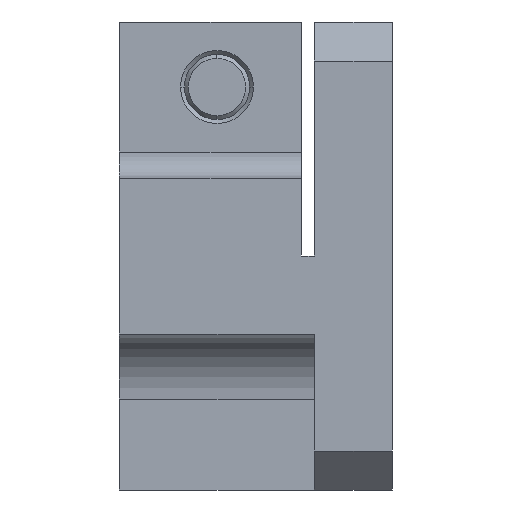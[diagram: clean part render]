
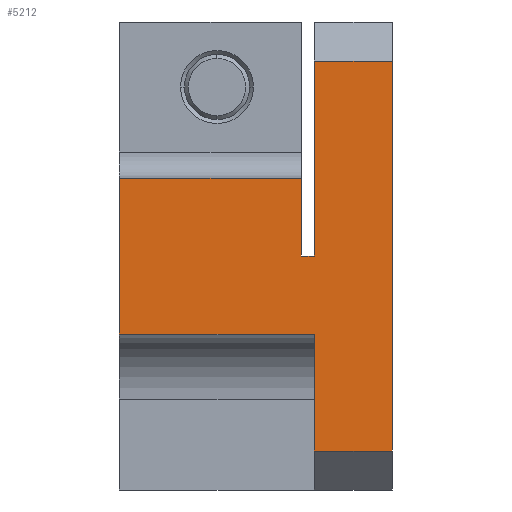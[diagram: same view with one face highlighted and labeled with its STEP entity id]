
A CAD part, left-side view. The second image highlights one B-rep face of the part: STEP entity #5212.
In plain terms, the highlighted planar face has unit normal (-1, 0, 0).
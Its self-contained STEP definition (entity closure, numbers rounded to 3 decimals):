
#94 = ORIENTED_EDGE ( 'NONE', *, *, #292, .F. ) ;
#292 = EDGE_CURVE ( 'NONE', #476, #6881, #1062, .T. ) ;
#419 = VERTEX_POINT ( 'NONE', #1305 ) ;
#470 = VECTOR ( 'NONE', #2616, 1000. ) ;
#476 = VERTEX_POINT ( 'NONE', #7019 ) ;
#745 = CARTESIAN_POINT ( 'NONE',  ( -32.604, -44.045, -15. ) ) ;
#823 = EDGE_CURVE ( 'NONE', #3649, #4412, #1107, .T. ) ;
#1043 = DIRECTION ( 'NONE',  ( 0., 0., 1. ) ) ;
#1062 = LINE ( 'NONE', #9571, #1545 ) ;
#1107 = LINE ( 'NONE', #9894, #470 ) ;
#1158 = VECTOR ( 'NONE', #6056, 1000. ) ;
#1175 = LINE ( 'NONE', #8552, #1625 ) ;
#1254 = CARTESIAN_POINT ( 'NONE',  ( -32.604, -38.045, 18. ) ) ;
#1305 = CARTESIAN_POINT ( 'NONE',  ( -32.604, -44.045, 15. ) ) ;
#1390 = CARTESIAN_POINT ( 'NONE',  ( -32.604, -38.045, 15. ) ) ;
#1545 = VECTOR ( 'NONE', #4996, 1000. ) ;
#1558 = ORIENTED_EDGE ( 'NONE', *, *, #823, .F. ) ;
#1625 = VECTOR ( 'NONE', #8591, 1000. ) ;
#1768 = EDGE_CURVE ( 'NONE', #1903, #8211, #1175, .T. ) ;
#1883 = CARTESIAN_POINT ( 'NONE',  ( -32.604, -23.045, -6. ) ) ;
#1903 = VERTEX_POINT ( 'NONE', #5991 ) ;
#1923 = ORIENTED_EDGE ( 'NONE', *, *, #5736, .F. ) ;
#1938 = CARTESIAN_POINT ( 'NONE',  ( -32.604, -23.045, -15. ) ) ;
#2095 = VECTOR ( 'NONE', #4953, 1000. ) ;
#2182 = EDGE_CURVE ( 'NONE', #8211, #419, #8545, .T. ) ;
#2265 = CARTESIAN_POINT ( 'NONE',  ( -32.604, -38.045, -15. ) ) ;
#2616 = DIRECTION ( 'NONE',  ( 0., -1., 0. ) ) ;
#2726 = VECTOR ( 'NONE', #6464, 1000. ) ;
#2733 = EDGE_CURVE ( 'NONE', #8399, #476, #4142, .T. ) ;
#2925 = ORIENTED_EDGE ( 'NONE', *, *, #2733, .F. ) ;
#3026 = ORIENTED_EDGE ( 'NONE', *, *, #6705, .T. ) ;
#3045 = AXIS2_PLACEMENT_3D ( 'NONE', #5347, #5109, #5431 ) ;
#3249 = LINE ( 'NONE', #1938, #2726 ) ;
#3548 = EDGE_CURVE ( 'NONE', #3922, #419, #10185, .T. ) ;
#3640 = DIRECTION ( 'NONE',  ( 0., -1., 0. ) ) ;
#3649 = VERTEX_POINT ( 'NONE', #9104 ) ;
#3680 = CARTESIAN_POINT ( 'NONE',  ( -32.604, -44.045, 18. ) ) ;
#3922 = VERTEX_POINT ( 'NONE', #745 ) ;
#4142 = LINE ( 'NONE', #1254, #8196 ) ;
#4412 = VERTEX_POINT ( 'NONE', #10282 ) ;
#4507 = LINE ( 'NONE', #9670, #2095 ) ;
#4540 = CARTESIAN_POINT ( 'NONE',  ( -32.604, -37.045, 0. ) ) ;
#4612 = VECTOR ( 'NONE', #3640, 1000. ) ;
#4664 = VECTOR ( 'NONE', #6217, 1000. ) ;
#4953 = DIRECTION ( 'NONE',  ( 0., -1., 0. ) ) ;
#4996 = DIRECTION ( 'NONE',  ( 0., 1., 0. ) ) ;
#5109 = DIRECTION ( 'NONE',  ( 1., 0., 0. ) ) ;
#5204 = PLANE ( 'NONE',  #3045 ) ;
#5212 = ADVANCED_FACE ( 'NONE', ( #9413 ), #5204, .F. ) ;
#5347 = CARTESIAN_POINT ( 'NONE',  ( -32.604, -23.045, 18. ) ) ;
#5431 = DIRECTION ( 'NONE',  ( 0., 0., -1. ) ) ;
#5736 = EDGE_CURVE ( 'NONE', #6881, #3649, #9912, .T. ) ;
#5991 = CARTESIAN_POINT ( 'NONE',  ( -32.604, -38.045, 0. ) ) ;
#6056 = DIRECTION ( 'NONE',  ( 0., 0., 1. ) ) ;
#6217 = DIRECTION ( 'NONE',  ( 0., 0., 1. ) ) ;
#6464 = DIRECTION ( 'NONE',  ( 0., 1., 0. ) ) ;
#6498 = CARTESIAN_POINT ( 'NONE',  ( -32.604, -23.045, 18. ) ) ;
#6572 = CARTESIAN_POINT ( 'NONE',  ( -32.604, -37.045, 0. ) ) ;
#6705 = EDGE_CURVE ( 'NONE', #8461, #4412, #9256, .T. ) ;
#6881 = VERTEX_POINT ( 'NONE', #1883 ) ;
#7019 = CARTESIAN_POINT ( 'NONE',  ( -32.604, -38.045, -6. ) ) ;
#7413 = ORIENTED_EDGE ( 'NONE', *, *, #1768, .F. ) ;
#7450 = CARTESIAN_POINT ( 'NONE',  ( -32.604, -23.045, 15. ) ) ;
#7887 = EDGE_LOOP ( 'NONE', ( #8669, #9910, #9231, #7413, #8172, #3026, #1558, #1923, #94, #2925 ) ) ;
#8172 = ORIENTED_EDGE ( 'NONE', *, *, #8781, .F. ) ;
#8196 = VECTOR ( 'NONE', #1043, 1000. ) ;
#8211 = VERTEX_POINT ( 'NONE', #1390 ) ;
#8399 = VERTEX_POINT ( 'NONE', #2265 ) ;
#8461 = VERTEX_POINT ( 'NONE', #4540 ) ;
#8545 = LINE ( 'NONE', #7450, #4612 ) ;
#8552 = CARTESIAN_POINT ( 'NONE',  ( -32.604, -38.045, 0. ) ) ;
#8591 = DIRECTION ( 'NONE',  ( 0., 0., 1. ) ) ;
#8669 = ORIENTED_EDGE ( 'NONE', *, *, #9050, .F. ) ;
#8781 = EDGE_CURVE ( 'NONE', #8461, #1903, #4507, .T. ) ;
#9050 = EDGE_CURVE ( 'NONE', #3922, #8399, #3249, .T. ) ;
#9104 = CARTESIAN_POINT ( 'NONE',  ( -32.604, -23.045, 6. ) ) ;
#9115 = VECTOR ( 'NONE', #9816, 1000. ) ;
#9231 = ORIENTED_EDGE ( 'NONE', *, *, #2182, .F. ) ;
#9256 = LINE ( 'NONE', #6572, #4664 ) ;
#9413 = FACE_OUTER_BOUND ( 'NONE', #7887, .T. ) ;
#9571 = CARTESIAN_POINT ( 'NONE',  ( -32.604, -23.045, -6. ) ) ;
#9670 = CARTESIAN_POINT ( 'NONE',  ( -32.604, -44.045, 0. ) ) ;
#9816 = DIRECTION ( 'NONE',  ( 0., 0., 1. ) ) ;
#9894 = CARTESIAN_POINT ( 'NONE',  ( -32.604, -38.045, 6. ) ) ;
#9910 = ORIENTED_EDGE ( 'NONE', *, *, #3548, .T. ) ;
#9912 = LINE ( 'NONE', #6498, #1158 ) ;
#10185 = LINE ( 'NONE', #3680, #9115 ) ;
#10282 = CARTESIAN_POINT ( 'NONE',  ( -32.604, -37.045, 6. ) ) ;
